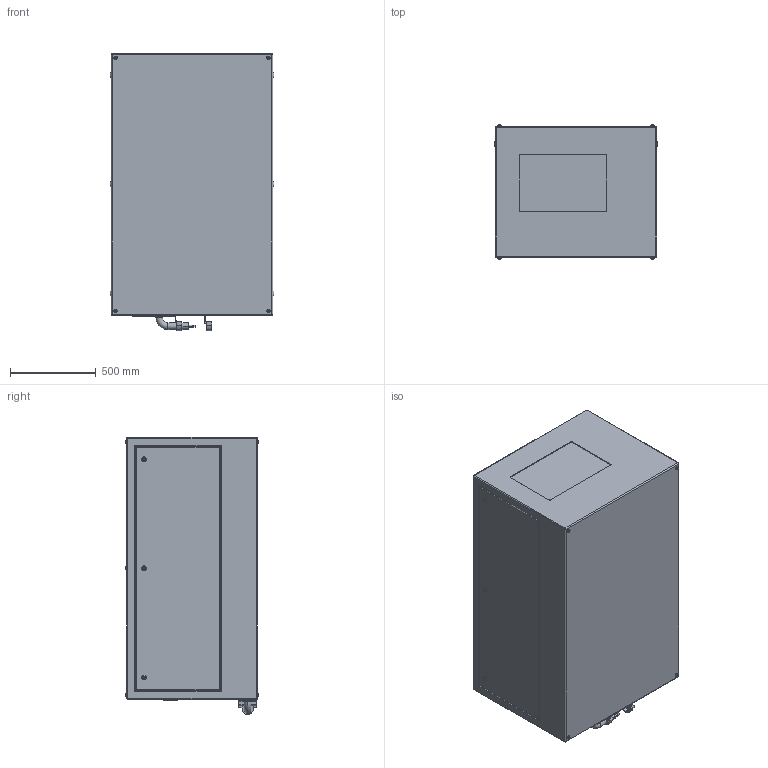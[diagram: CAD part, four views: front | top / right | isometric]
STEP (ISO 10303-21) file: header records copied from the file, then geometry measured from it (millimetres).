
FILE_DESCRIPTION (( 'STEP AP214' ), '1' );
FILE_NAME ('Oasis 59.514.L R02.STEP', '2022-09-12T23:48:00', ( '' ), ( '' ), 'SwSTEP 2.0', 'SolidWorks 2020', '' );
FILE_SCHEMA (( 'AUTOMOTIVE_DESIGN' ));
Length unit declared in the file: inch
Products named in the file (1): Oasis 59.514.L R02
Bounding box: 952.5 x 779.27 x 1612.9 mm (x, y, z)
Volume: 1090312499.4 mm3; surface area: 7154959.3 mm2
Topology: 3 solids, 9 shells, 510 faces, 1165 edges, 738 vertices
Faces by surface type: plane 279, cylinder 177, torus 46, bspline 8
Entity records: 19431 total; most frequent: CARTESIAN_POINT 2926, DIRECTION 2539, ORIENTED_EDGE 2314, EDGE_CURVE 1157, AXIS2_PLACEMENT_3D 911, VERTEX_POINT 738, VECTOR 717, LINE 717
